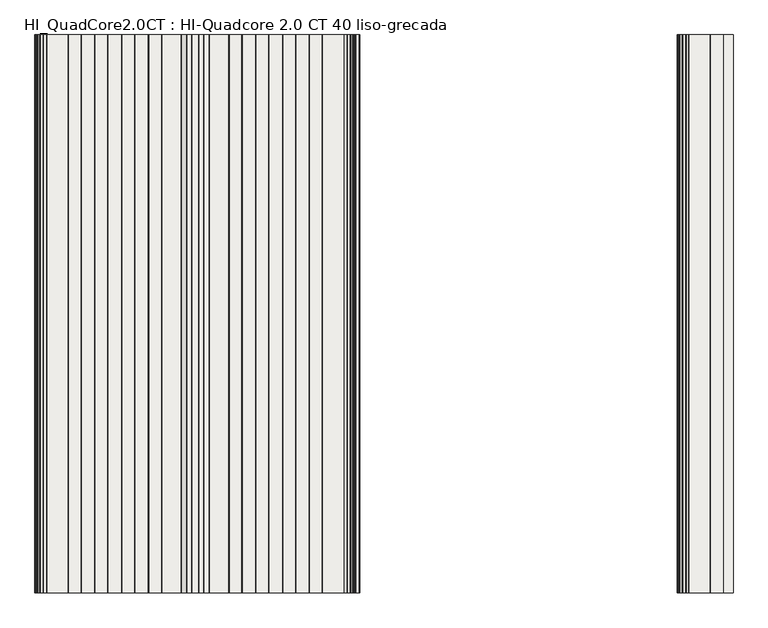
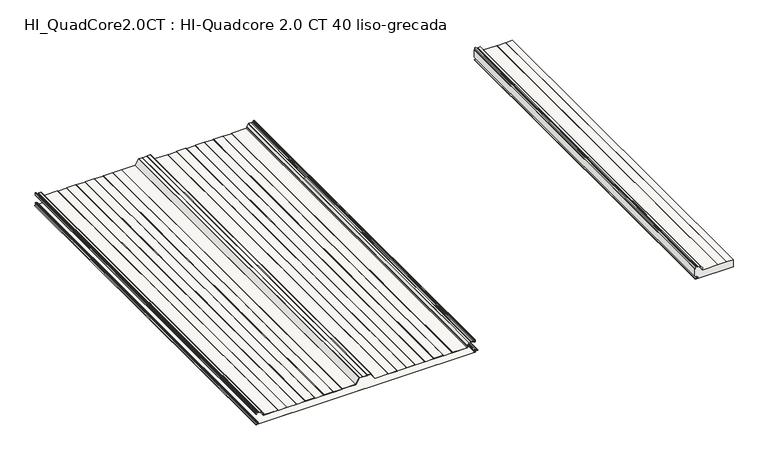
"""IFC4 building model written with IfcOpenShell, lengths in millimetres: slab geometry, HI_QuadCore2.0CT : HI-Quadcore 2.0 CT 40 liso-grecada."""

from ifc_helpers import new_model, si_unit, point, frame, frame_2d, origin, place, context, project, spatial, polyline, circle_curve, trimmed, segment, composite_curve, outline, extrude, source, transform, mapped, element, save
from ifc_brep_helpers import plane_surface, cylinder_surface, revolved_surface, advanced_brep


def hi_quadcore2_0ct_hi_quadcore_2_0_ct_40_liso_grecada_4fc66922(model_context):
    return source(origin(), model_context, "Body", "SolidModel", [
        advanced_brep(
        [(2305.1475465, 0.0, 55.7425833), (2301.3824194, 0.0, 57.9163804), (2300.0, 0.0, 57.9163804), (2300.0, 0.0, 16.239302), (2307.510215, 0.0, 16.239302), (2307.510215, 0.0, 15.4391074), (2303.6125693, 0.0, 15.4391074), (2302.4319301, 0.0, 14.2584682), (2303.4276302, 0.0, 13.0866965), (2311.8278581, 0.0, 11.7547343), (2311.7995989, 0.0, 4.4809044), (2301.8467032, 0.0, 2.9844289), (2302.0100062, 0.0, 0.8), (2500.0, 0.0, 0.8), (2500.0, 0.0, 39.2), (2467.3816122, 0.0, 39.2), (2465.6495614, 0.0, 38.2), (2420.6152775, 0.0, 38.2), (2418.8832267, 0.0, 39.2), (2342.7795617, 0.0, 39.2), (2339.9577511, 0.0, 46.2744555), (2340.9081159, 0.0, 47.0692788), (2341.1089583, 0.0, 48.5361221), (2331.7709236, 0.0, 62.1230469), (2330.8643848, 0.0, 62.6), (2321.5371875, 0.0, 62.6), (2319.8324194, 0.0, 61.8110374), (2318.1276514, 0.0, 62.6), (2311.4016791, 0.0, 62.6), (2309.2490397, 0.0, 64.0383476), (2307.3922843, 0.0, 68.5209518), (2306.3760168, 0.0, 69.2), (2302.7824194, 0.0, 69.2), (2301.6824194, 0.0, 68.1), (2301.6824194, 0.0, 58.6669358), (2305.5475465, 0.0, 56.4354036), (2305.1475465, 2000.0, 55.7425833), (2305.5475465, 2000.0, 56.4354036), (2301.6824194, 2000.0, 58.6669358), (2301.6824194, 2000.0, 68.1), (2302.7824194, 2000.0, 69.2), (2306.3760168, 2000.0, 69.2), (2307.3922843, 2000.0, 68.5209518), (2309.2490397, 2000.0, 64.0383476), (2311.4016791, 2000.0, 62.6), (2318.1276514, 2000.0, 62.6), (2319.8324194, 2000.0, 61.8110374), (2321.5371875, 2000.0, 62.6), (2330.8643848, 2000.0, 62.6), (2331.7709236, 2000.0, 62.1230469), (2341.1089583, 2000.0, 48.5361221), (2340.9081159, 2000.0, 47.0692788), (2339.9577511, 2000.0, 46.2744555), (2342.7795617, 2000.0, 39.2), (2418.8832267, 2000.0, 39.2), (2420.6152775, 2000.0, 38.2), (2465.6495614, 2000.0, 38.2), (2467.3816122, 2000.0, 39.2), (2500.0, 2000.0, 39.2), (2500.0, 2000.0, 0.8), (2302.0100062, 2000.0, 0.8), (2301.8467032, 2000.0, 2.9844289), (2311.7995989, 2000.0, 4.4809044), (2311.8278581, 2000.0, 11.7547343), (2303.4273037, 2000.0, 13.0846342), (2302.4319301, 2000.0, 14.2584682), (2303.6125693, 2000.0, 15.4391074), (2307.510215, 2000.0, 15.4391074), (2307.510215, 2000.0, 16.239302), (2300.0, 2000.0, 16.239302), (2300.0, 2000.0, 57.9163804), (2301.3824194, 2000.0, 57.9163804)],
        [
            (0, 1),
            (1, 2),
            (2, 3),
            (3, 4),
            (4, 5),
            (5, 6),
            (6, 7, circle_curve(frame((2303.6125693, 0.0, 14.2584682), z_axis=(0.0, -1.0, 0.0), x_axis=(1.0, 0.0, 0.0)), 1.1806391)),
            (7, 8, circle_curve(frame((2303.6121809, 0.0, 14.2524448), z_axis=(0.0, -1.0, 0.0), x_axis=(1.0, 0.0, 0.0)), 1.1802661)),
            (8, 9),
            (9, 10, circle_curve(frame((2311.2524398, 0.0, 8.12), z_axis=(0.0, 1.0, 0.0), x_axis=(1.0, 0.0, 0.0)), 3.68)),
            (10, 11),
            (11, 12, circle_curve(frame((2302.0100062, 0.0, 1.8983185), z_axis=(0.0, -1.0, 0.0), x_axis=(1.0, 0.0, 0.0)), 1.0983185)),
            (12, 13),
            (13, 14),
            (14, 15),
            (15, 16),
            (16, 17),
            (17, 18),
            (18, 19),
            (19, 20, circle_curve(frame((2342.7795617, 0.0, 43.3), z_axis=(0.0, 1.0, 0.0), x_axis=(1.0, 0.0, 0.0)), 4.1)),
            (20, 21),
            (21, 22, circle_curve(frame((2340.2024195, 0.0, 47.9130752), z_axis=(0.0, -1.0, 0.0), x_axis=(1.0, 0.0, 0.0)), 1.1)),
            (22, 23),
            (23, 24, circle_curve(frame((2330.8643848, 0.0, 61.5), z_axis=(0.0, -1.0, 0.0), x_axis=(1.0, 0.0, 0.0)), 1.1)),
            (24, 25),
            (25, 26),
            (26, 27),
            (27, 28),
            (28, 29, circle_curve(frame((2311.4016791, 0.0, 64.93), z_axis=(0.0, 1.0, 0.0), x_axis=(1.0, 0.0, 0.0)), 2.33)),
            (29, 30),
            (30, 31, circle_curve(frame((2306.3760168, 0.0, 68.1), z_axis=(0.0, -1.0, 0.0), x_axis=(1.0, 0.0, 0.0)), 1.1)),
            (31, 32),
            (32, 33, circle_curve(frame((2302.7824194, 0.0, 68.1), z_axis=(0.0, -1.0, 0.0), x_axis=(1.0, 0.0, 0.0)), 1.1)),
            (33, 34),
            (34, 35),
            (35, 0),
            (36, 37),
            (37, 38),
            (38, 39),
            (39, 40, circle_curve(frame((2302.7824194, 2000.0, 68.1), z_axis=(0.0, 1.0, 0.0), x_axis=(1.0, 0.0, 0.0)), 1.1)),
            (40, 41),
            (41, 42, circle_curve(frame((2306.3760168, 2000.0, 68.1), z_axis=(0.0, 1.0, 0.0), x_axis=(1.0, 0.0, 0.0)), 1.1)),
            (42, 43),
            (43, 44, circle_curve(frame((2311.4016791, 2000.0, 64.93), z_axis=(0.0, -1.0, 0.0), x_axis=(1.0, 0.0, 0.0)), 2.33)),
            (44, 45),
            (45, 46),
            (46, 47),
            (47, 48),
            (48, 49, circle_curve(frame((2330.8643848, 2000.0, 61.5), z_axis=(0.0, 1.0, 0.0), x_axis=(1.0, 0.0, 0.0)), 1.1)),
            (49, 50),
            (50, 51, circle_curve(frame((2340.2024195, 2000.0, 47.9130752), z_axis=(0.0, 1.0, 0.0), x_axis=(1.0, 0.0, 0.0)), 1.1)),
            (51, 52),
            (52, 53, circle_curve(frame((2342.7795617, 2000.0, 43.3), z_axis=(0.0, -1.0, 0.0), x_axis=(1.0, 0.0, 0.0)), 4.1)),
            (53, 54),
            (54, 55),
            (55, 56),
            (56, 57),
            (57, 58),
            (58, 59),
            (59, 60),
            (60, 61, circle_curve(frame((2302.0100062, 2000.0, 1.8983185), z_axis=(0.0, 1.0, 0.0), x_axis=(1.0, 0.0, 0.0)), 1.0983185)),
            (61, 62),
            (62, 63, circle_curve(frame((2311.2524398, 2000.0, 8.12), z_axis=(0.0, -1.0, 0.0), x_axis=(1.0, 0.0, 0.0)), 3.68)),
            (63, 64),
            (64, 65, circle_curve(frame((2303.6121809, 2000.0, 14.2524448), z_axis=(0.0, 1.0, 0.0), x_axis=(1.0, 0.0, 0.0)), 1.1802661)),
            (65, 66, circle_curve(frame((2303.6125693, 2000.0, 14.2584682), z_axis=(0.0, 1.0, 0.0), x_axis=(1.0, 0.0, 0.0)), 1.1806391)),
            (66, 67),
            (67, 68),
            (68, 69),
            (69, 70),
            (70, 71),
            (71, 36),
            (0, 36),
            (71, 1),
            (70, 2),
            (69, 3),
            (57, 15),
            (14, 58),
            (56, 16),
            (55, 17),
            (54, 18),
            (53, 19),
            (52, 20),
            (51, 21),
            (50, 22),
            (49, 23),
            (48, 24),
            (47, 25),
            (46, 26),
            (45, 27),
            (44, 28),
            (43, 29),
            (42, 30),
            (41, 31),
            (40, 32),
            (39, 33),
            (38, 34),
            (37, 35),
            (68, 4),
            (67, 5),
            (66, 6),
            (65, 7),
            (64, 8),
            (63, 9),
            (62, 10),
            (61, 11),
            (60, 12),
            (59, 13),
        ],
        [
            plane_surface(frame((2301.3824194, 0.0, 57.9163804), z_axis=(0.0, -1.0, 0.0), x_axis=(-0.8660254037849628, 0.0, 0.49999999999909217))),
            plane_surface(frame((2301.3824194, 2000.0, 57.9163804), z_axis=(0.0, 1.0, 0.0), x_axis=(0.8660254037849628, 0.0, -0.49999999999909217))),
            plane_surface(frame((2305.1475465, 0.0, 55.7425833), z_axis=(0.49999999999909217, 0.0, 0.8660254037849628), x_axis=(0.0, 1.0, 0.0))),
            plane_surface(frame((2301.3824194, 0.0, 57.9163804), z_axis=(0.0, 0.0, 1.0), x_axis=(0.0, 1.0, 0.0))),
            plane_surface(frame((2300.0, 0.0, 57.9163804), z_axis=(-1.0, 0.0, 0.0), x_axis=(0.0, 1.0, 0.0))),
            plane_surface(frame((2514.8832267, 0.0, 39.2), z_axis=(0.0, 0.0, 1.0), x_axis=(0.0, 1.0, 0.0))),
            plane_surface(frame((2467.3816122, 0.0, 39.2), z_axis=(-0.5000000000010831, 0.0, 0.8660254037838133), x_axis=(0.0, 1.0, 0.0))),
            plane_surface(frame((2465.6495614, 0.0, 38.2), z_axis=(0.0, 0.0, 1.0), x_axis=(0.0, 1.0, 0.0))),
            plane_surface(frame((2420.6152775, 0.0, 38.2), z_axis=(0.4999999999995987, 0.0, 0.8660254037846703), x_axis=(0.0, 1.0, 0.0))),
            plane_surface(frame((2418.8832267, 0.0, 39.2), z_axis=(0.0, 0.0, 1.0), x_axis=(0.0, 1.0, 0.0))),
            revolved_surface(polyline([(2346.8795617, 2000.0, 43.3), (2346.8795617, 0.0, 43.3)]), (2342.7795617, 2000.0, 43.3), (0.0, 1.0, 0.0)),
            plane_surface(frame((2339.9577511, 0.0, 46.2744555), z_axis=(0.6415422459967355, 0.0, -0.767087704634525), x_axis=(0.0, 1.0, 0.0))),
            cylinder_surface(frame((2340.2024195, 2000.0, 47.9130752), z_axis=(0.0, -1.0, 0.0), x_axis=(1.0, 0.0, 0.0)), 1.1),
            plane_surface(frame((2341.1089583, 0.0, 48.5361221), z_axis=(0.8241261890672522, 0.0, 0.5664062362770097), x_axis=(0.0, 1.0, 0.0))),
            cylinder_surface(frame((2330.8643848, 2000.0, 61.5), z_axis=(0.0, -1.0, 0.0), x_axis=(1.0, 0.0, 0.0)), 1.1),
            plane_surface(frame((2330.8643848, 0.0, 62.6), z_axis=(0.0, 0.0, 1.0), x_axis=(0.0, 1.0, 0.0))),
            plane_surface(frame((2321.5371875, 0.0, 62.6), z_axis=(-0.41999999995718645, 0.0, 0.9075241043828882), x_axis=(0.0, 1.0, 0.0))),
            plane_surface(frame((2319.8324194, 0.0, 61.8110374), z_axis=(0.4200000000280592, 0.0, 0.9075241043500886), x_axis=(0.0, 1.0, 0.0))),
            plane_surface(frame((2318.1276514, 0.0, 62.6), z_axis=(0.0, 0.0, 1.0), x_axis=(0.0, 1.0, 0.0))),
            revolved_surface(polyline([(2313.7316791, 2000.0, 64.93), (2313.7316791, 0.0, 64.93)]), (2311.4016791, 2000.0, 64.93), (0.0, 1.0, 0.0)),
            plane_surface(frame((2309.2490397, 0.0, 64.0383476), z_axis=(0.9238795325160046, 0.0, 0.3826834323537), x_axis=(0.0, 1.0, 0.0))),
            cylinder_surface(frame((2306.3760168, 2000.0, 68.1), z_axis=(0.0, -1.0, 0.0), x_axis=(1.0, 0.0, 0.0)), 1.1),
            plane_surface(frame((2306.3760168, 0.0, 69.2), z_axis=(0.0, 0.0, 1.0), x_axis=(0.0, 1.0, 0.0))),
            cylinder_surface(frame((2302.7824194, 2000.0, 68.1), z_axis=(0.0, -1.0, 0.0), x_axis=(1.0, 0.0, 0.0)), 1.1),
            plane_surface(frame((2301.6824194, 0.0, 68.1), z_axis=(-1.0, 0.0, 0.0), x_axis=(0.0, 1.0, 0.0))),
            plane_surface(frame((2301.6824194, 0.0, 58.6669358), z_axis=(-0.49999999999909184, 0.0, -0.866025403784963), x_axis=(0.0, 1.0, 0.0))),
            plane_surface(frame((2305.5475465, 0.0, 56.4354036), z_axis=(-0.866025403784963, 0.0, 0.4999999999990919), x_axis=(0.0, 1.0, 0.0))),
            plane_surface(frame((2300.0, 0.0, 16.239302), z_axis=(0.0, 0.0, -1.0), x_axis=(0.0, 1.0, 0.0))),
            plane_surface(frame((2307.510215, 0.0, 16.239302), z_axis=(-1.0, 0.0, 0.0), x_axis=(0.0, 1.0, 0.0))),
            plane_surface(frame((2307.510215, 0.0, 15.4391074), z_axis=(0.0, 0.0, 1.0), x_axis=(0.0, 1.0, 0.0))),
            cylinder_surface(frame((2303.6125693, 2000.0, 14.2584682), z_axis=(0.0, -1.0, 0.0), x_axis=(1.0, 0.0, 0.0)), 1.1806391),
            cylinder_surface(frame((2303.6121809, 2000.0, 14.2524448), z_axis=(0.0, -1.0, 0.0), x_axis=(1.0, 0.0, 0.0)), 1.1802661),
            plane_surface(frame((2303.4273037, 0.0, 13.0846342), z_axis=(-0.1563636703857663, 0.0, -0.9876995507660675), x_axis=(0.0, 1.0, 0.0))),
            revolved_surface(polyline([(2314.9324398, 2000.0, 8.12), (2314.9324398, 0.0, 8.12)]), (2311.2524398, 2000.0, 8.12), (0.0, 1.0, 0.0)),
            plane_surface(frame((2311.7995989, 0.0, 4.4809044), z_axis=(-0.14868453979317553, 0.0, 0.9888846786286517), x_axis=(0.0, 1.0, 0.0))),
            cylinder_surface(frame((2302.0100062, 2000.0, 1.8983185), z_axis=(0.0, -1.0, 0.0), x_axis=(1.0, 0.0, 0.0)), 1.0983185),
            plane_surface(frame((2302.0100062, 0.0, 0.8), z_axis=(0.0, 0.0, -1.0), x_axis=(0.0, 1.0, 0.0))),
            plane_surface(frame((2500.0, 0.0, 86.2714688), z_axis=(1.0, 0.0, 0.0), x_axis=(0.0, 1.0, 0.0))),
        ],
        [
            (0, [[1, 2, 3, 4, 5, 6, 7, 8, 9, 10, 11, 12, 13, 14, 15, 16, 17, 18, 19, 20, 21, 22, 23, 24, 25, 26, 27, 28, 29, 30, 31, 32, 33, 34, 35, 36]]),
            (1, [[37, 38, 39, 40, 41, 42, 43, 44, 45, 46, 47, 48, 49, 50, 51, 52, 53, 54, 55, 56, 57, 58, 59, 60, 61, 62, 63, 64, 65, 66, 67, 68, 69, 70, 71, 72]]),
            (2, [[-1, 73, -72, 74]]),
            (3, [[-2, -74, -71, 75]]),
            (4, [[-75, -70, 76, -3]]),
            (5, [[77, -15, 78, -58]]),
            (6, [[-16, -77, -57, 79]]),
            (7, [[-17, -79, -56, 80]]),
            (8, [[-18, -80, -55, 81]]),
            (9, [[-19, -81, -54, 82]]),
            (10, [[-20, -82, -53, 83]]),
            (11, [[-21, -83, -52, 84]]),
            (12, [[-22, -84, -51, 85]]),
            (13, [[-23, -85, -50, 86]]),
            (14, [[-24, -86, -49, 87]]),
            (15, [[-25, -87, -48, 88]]),
            (16, [[-26, -88, -47, 89]]),
            (17, [[-27, -89, -46, 90]]),
            (18, [[-28, -90, -45, 91]]),
            (19, [[-29, -91, -44, 92]]),
            (20, [[-30, -92, -43, 93]]),
            (21, [[-31, -93, -42, 94]]),
            (22, [[-32, -94, -41, 95]]),
            (23, [[-33, -95, -40, 96]]),
            (24, [[-34, -96, -39, 97]]),
            (25, [[-35, -97, -38, 98]]),
            (26, [[-36, -98, -37, -73]]),
            (27, [[-76, -69, 99, -4]]),
            (28, [[-5, -99, -68, 100]]),
            (29, [[-6, -100, -67, 101]]),
            (30, [[-7, -101, -66, 102]]),
            (31, [[-8, -102, -65, 103]]),
            (32, [[-9, -103, -64, 104]]),
            (33, [[-10, -104, -63, 105]]),
            (34, [[-11, -105, -62, 106]]),
            (35, [[-12, -106, -61, 107]]),
            (36, [[-107, -60, 108, -13]]),
            (37, [[-14, -108, -59, -78]]),
        ],
    ),
        advanced_brep(
        [(3.6125412, 0.0, 16.239302), (1.6320413, 0.0, 14.2588021), (3.3026044, 0.0, 12.2960661), (11.7027672, 0.0, 10.9645747), (11.6806488, 0.0, 5.2720118), (1.7277556, 0.0, 3.7755366), (2.0100062, 0.0, 0.0), (1147.9590685, 0.0, 0.0), (1150.1391392, 0.0, 2.1800708), (1152.6636211, 0.0, 5.0353254), (1160.9083654, 0.0, 6.0356531), (1160.9083654, 0.0, 10.2043469), (1150.9419234, 0.0, 11.413338), (1148.6324398, 0.0, 14.0237344), (1147.5187526, 0.0, 16.24), (1142.7624398, 0.0, 16.24), (1142.7624398, 0.0, 15.44), (1147.2282701, 0.0, 15.44), (1147.8324398, 0.0, 14.0237344), (1150.8450446, 0.0, 10.6192254), (1160.7843299, 0.0, 9.4135286), (1160.7843221, 0.0, 6.8264698), (1152.5664905, 0.0, 5.8294074), (1149.3391392, 0.0, 2.1800708), (1147.9590685, 0.0, 0.8), (2.0100062, 0.0, 0.8), (1.8467032, 0.0, 2.9844289), (11.7995989, 0.0, 4.4809044), (11.8278581, 0.0, 11.7547343), (3.4279307, 0.0, 13.084535), (2.4319301, 0.0, 14.2584682), (3.6125693, 0.0, 15.4391074), (7.510215, 0.0, 15.4391074), (7.510215, 0.0, 16.239302), (3.6125412, 2000.0, 16.239302), (7.510215, 2000.0, 16.239302), (7.510215, 2000.0, 15.4391074), (3.6125693, 2000.0, 15.4391074), (2.4319301, 2000.0, 14.2584682), (3.4276302, 2000.0, 13.0866965), (11.8278581, 2000.0, 11.7547343), (11.7995989, 2000.0, 4.4809044), (1.8467032, 2000.0, 2.9844289), (2.0100062, 2000.0, 0.8), (1147.9590685, 2000.0, 0.8), (1149.3391392, 2000.0, 2.1800708), (1152.5664905, 2000.0, 5.8294074), (1160.7843221, 2000.0, 6.8264698), (1160.7843299, 2000.0, 9.4135286), (1150.8450446, 2000.0, 10.6192254), (1147.8324398, 2000.0, 14.0237344), (1147.2282701, 2000.0, 15.44), (1142.7624398, 2000.0, 15.44), (1142.7624398, 2000.0, 16.24), (1147.5187526, 2000.0, 16.24), (1148.6324398, 2000.0, 14.0237344), (1150.9419234, 2000.0, 11.413338), (1160.9083654, 2000.0, 10.2043469), (1160.9083654, 2000.0, 6.0356531), (1152.6636211, 2000.0, 5.0353254), (1150.1391392, 2000.0, 2.1800708), (1147.9590685, 2000.0, 0.0), (2.0100062, 2000.0, 0.0), (1.7277556, 2000.0, 3.7755366), (11.6806488, 2000.0, 5.2720118), (11.7027672, 2000.0, 10.9645747), (3.3028397, 2000.0, 12.2943753), (1.6320413, 2000.0, 14.2588021)],
        [
            (0, 1, circle_curve(frame((3.6125412, 0.0, 14.2588021), z_axis=(0.0, -1.0, 0.0), x_axis=(1.0, 0.0, 0.0)), 1.9804999)),
            (1, 2, circle_curve(frame((3.612237, 0.0, 14.2519163), z_axis=(0.0, -1.0, 0.0), x_axis=(1.0, 0.0, 0.0)), 1.9802076)),
            (2, 3),
            (3, 4, circle_curve(frame((11.2524398, 0.0, 8.12), z_axis=(0.0, 1.0, 0.0), x_axis=(1.0, 0.0, 0.0)), 2.88)),
            (4, 5),
            (5, 6, circle_curve(frame((2.0100062, 0.0, 1.8983185), z_axis=(0.0, -1.0, 0.0), x_axis=(1.0, 0.0, 0.0)), 1.8983185)),
            (6, 7),
            (7, 8, circle_curve(frame((1147.9590685, 0.0, 2.1800708), z_axis=(0.0, -1.0, 0.0), x_axis=(1.0, 0.0, 0.0)), 2.1800708)),
            (8, 9, circle_curve(frame((1153.0160638, 0.0, 2.1800708), z_axis=(0.0, 1.0, 0.0), x_axis=(1.0, 0.0, 0.0)), 2.8769246)),
            (9, 10),
            (10, 11, circle_curve(frame((1160.5224398, 0.0, 8.12), z_axis=(0.0, -1.0, 0.0), x_axis=(1.0, 0.0, 0.0)), 2.1197737)),
            (11, 12),
            (12, 13, circle_curve(frame((1151.2624398, 0.0, 14.0237344), z_axis=(0.0, 1.0, 0.0), x_axis=(1.0, 0.0, 0.0)), 2.63)),
            (13, 14, circle_curve(frame((1145.8703839, 0.0, 14.0237344), z_axis=(0.0, -1.0, 0.0), x_axis=(1.0, 0.0, 0.0)), 2.7620559)),
            (14, 15),
            (15, 16),
            (16, 17),
            (17, 18, circle_curve(frame((1145.8703839, 0.0, 14.0237344), z_axis=(0.0, 1.0, 0.0), x_axis=(1.0, 0.0, 0.0)), 1.9620559)),
            (18, 19, circle_curve(frame((1151.2624398, 0.0, 14.0237344), z_axis=(0.0, -1.0, 0.0), x_axis=(1.0, 0.0, 0.0)), 3.43)),
            (19, 20),
            (20, 21, circle_curve(frame((1160.5224398, 0.0, 8.12), z_axis=(0.0, 1.0, 0.0), x_axis=(1.0, 0.0, 0.0)), 1.3197737)),
            (21, 22),
            (22, 23, circle_curve(frame((1153.0160638, 0.0, 2.1800708), z_axis=(0.0, -1.0, 0.0), x_axis=(1.0, 0.0, 0.0)), 3.6769246)),
            (23, 24, circle_curve(frame((1147.9590685, 0.0, 2.1800708), z_axis=(0.0, 1.0, 0.0), x_axis=(1.0, 0.0, 0.0)), 1.3800708)),
            (24, 25),
            (25, 26, circle_curve(frame((2.0100062, 0.0, 1.8983185), z_axis=(0.0, 1.0, 0.0), x_axis=(1.0, 0.0, 0.0)), 1.0983185)),
            (26, 27),
            (27, 28, circle_curve(frame((11.2524398, 0.0, 8.12), z_axis=(0.0, -1.0, 0.0), x_axis=(1.0, 0.0, 0.0)), 3.68)),
            (28, 29),
            (29, 30, circle_curve(frame((3.6121809, 0.0, 14.2524448), z_axis=(0.0, 1.0, 0.0), x_axis=(1.0, 0.0, 0.0)), 1.1802661)),
            (30, 31, circle_curve(frame((3.6125693, 0.0, 14.2584682), z_axis=(0.0, 1.0, 0.0), x_axis=(1.0, 0.0, 0.0)), 1.1806391)),
            (31, 32),
            (32, 33),
            (33, 0),
            (34, 35),
            (35, 36),
            (36, 37),
            (37, 38, circle_curve(frame((3.6125693, 2000.0, 14.2584682), z_axis=(0.0, -1.0, 0.0), x_axis=(1.0, 0.0, 0.0)), 1.1806391)),
            (38, 39, circle_curve(frame((3.6121809, 2000.0, 14.2524448), z_axis=(0.0, -1.0, 0.0), x_axis=(1.0, 0.0, 0.0)), 1.1802661)),
            (39, 40),
            (40, 41, circle_curve(frame((11.2524398, 2000.0, 8.12), z_axis=(0.0, 1.0, 0.0), x_axis=(1.0, 0.0, 0.0)), 3.68)),
            (41, 42),
            (42, 43, circle_curve(frame((2.0100062, 2000.0, 1.8983185), z_axis=(0.0, -1.0, 0.0), x_axis=(1.0, 0.0, 0.0)), 1.0983185)),
            (43, 44),
            (44, 45, circle_curve(frame((1147.9590685, 2000.0, 2.1800708), z_axis=(0.0, -1.0, 0.0), x_axis=(1.0, 0.0, 0.0)), 1.3800708)),
            (45, 46, circle_curve(frame((1153.0160638, 2000.0, 2.1800708), z_axis=(0.0, 1.0, 0.0), x_axis=(1.0, 0.0, 0.0)), 3.6769246)),
            (46, 47),
            (47, 48, circle_curve(frame((1160.5224398, 2000.0, 8.12), z_axis=(0.0, -1.0, 0.0), x_axis=(1.0, 0.0, 0.0)), 1.3197737)),
            (48, 49),
            (49, 50, circle_curve(frame((1151.2624398, 2000.0, 14.0237344), z_axis=(0.0, 1.0, 0.0), x_axis=(1.0, 0.0, 0.0)), 3.43)),
            (50, 51, circle_curve(frame((1145.8703839, 2000.0, 14.0237344), z_axis=(0.0, -1.0, 0.0), x_axis=(1.0, 0.0, 0.0)), 1.9620559)),
            (51, 52),
            (52, 53),
            (53, 54),
            (54, 55, circle_curve(frame((1145.8703839, 2000.0, 14.0237344), z_axis=(0.0, 1.0, 0.0), x_axis=(1.0, 0.0, 0.0)), 2.7620559)),
            (55, 56, circle_curve(frame((1151.2624398, 2000.0, 14.0237344), z_axis=(0.0, -1.0, 0.0), x_axis=(1.0, 0.0, 0.0)), 2.63)),
            (56, 57),
            (57, 58, circle_curve(frame((1160.5224398, 2000.0, 8.12), z_axis=(0.0, 1.0, 0.0), x_axis=(1.0, 0.0, 0.0)), 2.1197737)),
            (58, 59),
            (59, 60, circle_curve(frame((1153.0160638, 2000.0, 2.1800708), z_axis=(0.0, -1.0, 0.0), x_axis=(1.0, 0.0, 0.0)), 2.8769246)),
            (60, 61, circle_curve(frame((1147.9590685, 2000.0, 2.1800708), z_axis=(0.0, 1.0, 0.0), x_axis=(1.0, 0.0, 0.0)), 2.1800708)),
            (61, 62),
            (62, 63, circle_curve(frame((2.0100062, 2000.0, 1.8983185), z_axis=(0.0, 1.0, 0.0), x_axis=(1.0, 0.0, 0.0)), 1.8983185)),
            (63, 64),
            (64, 65, circle_curve(frame((11.2524398, 2000.0, 8.12), z_axis=(0.0, -1.0, 0.0), x_axis=(1.0, 0.0, 0.0)), 2.88)),
            (65, 66),
            (66, 67, circle_curve(frame((3.612237, 2000.0, 14.2519163), z_axis=(0.0, 1.0, 0.0), x_axis=(1.0, 0.0, 0.0)), 1.9802076)),
            (67, 34, circle_curve(frame((3.6125412, 2000.0, 14.2588021), z_axis=(0.0, 1.0, 0.0), x_axis=(1.0, 0.0, 0.0)), 1.9804999)),
            (0, 34),
            (67, 1),
            (66, 2),
            (65, 3),
            (64, 4),
            (63, 5),
            (62, 6),
            (61, 7),
            (60, 8),
            (59, 9),
            (58, 10),
            (57, 11),
            (56, 12),
            (55, 13),
            (54, 14),
            (53, 15),
            (52, 16),
            (51, 17),
            (50, 18),
            (49, 19),
            (48, 20),
            (47, 21),
            (46, 22),
            (45, 23),
            (44, 24),
            (43, 25),
            (42, 26),
            (41, 27),
            (40, 28),
            (39, 29),
            (38, 30),
            (37, 31),
            (36, 32),
            (35, 33),
        ],
        [
            plane_surface(frame((5.5930411, 0.0, 14.2588021), z_axis=(0.0, -1.0, 0.0), x_axis=(0.0, 0.0, 1.0))),
            plane_surface(frame((5.5930411, 2000.0, 14.2588021), z_axis=(0.0, 1.0, 0.0), x_axis=(0.0, 0.0, -1.0))),
            cylinder_surface(frame((3.6125412, 2000.0, 14.2588021), z_axis=(0.0, -1.0, 0.0), x_axis=(1.0, 0.0, 0.0)), 1.9804999),
            cylinder_surface(frame((3.612237, 2000.0, 14.2519163), z_axis=(0.0, -1.0, 0.0), x_axis=(1.0, 0.0, 0.0)), 1.9802076),
            plane_surface(frame((3.3028397, 0.0, 12.2943753), z_axis=(-0.15636367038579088, 0.0, -0.9876995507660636), x_axis=(0.0, 1.0, 0.0))),
            revolved_surface(polyline([(14.1324398, 2000.0, 8.12), (14.1324398, 0.0, 8.12)]), (11.2524398, 2000.0, 8.12), (0.0, 1.0, 0.0)),
            plane_surface(frame((11.6806488, 0.0, 5.2720118), z_axis=(-0.14868453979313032, 0.0, 0.9888846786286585), x_axis=(0.0, 1.0, 0.0))),
            cylinder_surface(frame((2.0100062, 2000.0, 1.8983185), z_axis=(0.0, -1.0, 0.0), x_axis=(1.0, 0.0, 0.0)), 1.8983185),
            plane_surface(frame((2.0100062, 0.0, 0.0), z_axis=(0.0, 0.0, -1.0), x_axis=(0.0, 1.0, 0.0))),
            cylinder_surface(frame((1147.9590685, 2000.0, 2.1800708), z_axis=(0.0, -1.0, 0.0), x_axis=(1.0, 0.0, 0.0)), 2.1800708),
            revolved_surface(polyline([(1155.8929884, 2000.0, 2.1800708), (1155.8929884, 0.0, 2.1800708)]), (1153.0160638, 2000.0, 2.1800708), (0.0, 1.0, 0.0)),
            plane_surface(frame((1152.6636211, 0.0, 5.0353254), z_axis=(0.12044584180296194, 0.0, -0.9927198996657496), x_axis=(0.0, 1.0, 0.0))),
            cylinder_surface(frame((1160.5224398, 2000.0, 8.12), z_axis=(0.0, -1.0, 0.0), x_axis=(1.0, 0.0, 0.0)), 2.1197737),
            plane_surface(frame((1160.9083654, 0.0, 10.2043469), z_axis=(0.12042339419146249, 0.0, 0.9927226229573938), x_axis=(0.0, 1.0, 0.0))),
            revolved_surface(polyline([(1153.8924398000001, 2000.0, 14.0237344), (1153.8924398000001, 0.0, 14.0237344)]), (1151.2624398, 2000.0, 14.0237344), (0.0, 1.0, 0.0)),
            cylinder_surface(frame((1145.8703839, 2000.0, 14.0237344), z_axis=(0.0, -1.0, 0.0), x_axis=(1.0, 0.0, 0.0)), 2.7620559),
            plane_surface(frame((1147.5187526, 0.0, 16.24), z_axis=(0.0, 0.0, 1.0), x_axis=(0.0, 1.0, 0.0))),
            plane_surface(frame((1142.7624398, 0.0, 16.24), z_axis=(-1.0, 0.0, 0.0), x_axis=(0.0, 1.0, 0.0))),
            plane_surface(frame((1142.7624398, 0.0, 15.44), z_axis=(0.0, 0.0, -1.0), x_axis=(0.0, 1.0, 0.0))),
            revolved_surface(polyline([(1147.8324398, 2000.0, 14.0237344), (1147.8324398, 0.0, 14.0237344)]), (1145.8703839, 2000.0, 14.0237344), (0.0, 1.0, 0.0)),
            cylinder_surface(frame((1151.2624398, 2000.0, 14.0237344), z_axis=(0.0, -1.0, 0.0), x_axis=(1.0, 0.0, 0.0)), 3.43),
            plane_surface(frame((1150.8450446, 0.0, 10.6192254), z_axis=(-0.12042339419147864, 0.0, -0.9927226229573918), x_axis=(0.0, 1.0, 0.0))),
            revolved_surface(polyline([(1161.8422135, 2000.0, 8.12), (1161.8422135, 0.0, 8.12)]), (1160.5224398, 2000.0, 8.12), (0.0, 1.0, 0.0)),
            plane_surface(frame((1160.7843221, 0.0, 6.8264698), z_axis=(-0.12044584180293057, 0.0, 0.9927198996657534), x_axis=(0.0, 1.0, 0.0))),
            cylinder_surface(frame((1153.0160638, 2000.0, 2.1800708), z_axis=(0.0, -1.0, 0.0), x_axis=(1.0, 0.0, 0.0)), 3.6769246),
            revolved_surface(polyline([(1149.3391393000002, 2000.0, 2.1800708), (1149.3391393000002, 0.0, 2.1800708)]), (1147.9590685, 2000.0, 2.1800708), (0.0, 1.0, 0.0)),
            plane_surface(frame((1147.9590685, 0.0, 0.8), z_axis=(0.0, 0.0, 1.0), x_axis=(0.0, 1.0, 0.0))),
            revolved_surface(polyline([(3.1083247, 2000.0, 1.8983185), (3.1083247, 0.0, 1.8983185)]), (2.0100062, 2000.0, 1.8983185), (0.0, 1.0, 0.0)),
            plane_surface(frame((1.8467032, 0.0, 2.9844289), z_axis=(0.14868453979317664, 0.0, -0.9888846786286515), x_axis=(0.0, 1.0, 0.0))),
            cylinder_surface(frame((11.2524398, 2000.0, 8.12), z_axis=(0.0, -1.0, 0.0), x_axis=(1.0, 0.0, 0.0)), 3.68),
            plane_surface(frame((11.8278581, 0.0, 11.7547343), z_axis=(0.15636367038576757, 0.0, 0.9876995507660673), x_axis=(0.0, 1.0, 0.0))),
            revolved_surface(polyline([(4.792447, 2000.0, 14.2524448), (4.792447, 0.0, 14.2524448)]), (3.6121809, 2000.0, 14.2524448), (0.0, 1.0, 0.0)),
            revolved_surface(polyline([(4.7932084, 2000.0, 14.2584682), (4.7932084, 0.0, 14.2584682)]), (3.6125693, 2000.0, 14.2584682), (0.0, 1.0, 0.0)),
            plane_surface(frame((3.6125693, 0.0, 15.4391074), z_axis=(0.0, 0.0, -1.0), x_axis=(0.0, 1.0, 0.0))),
            plane_surface(frame((7.510215, 0.0, 15.4391074), z_axis=(1.0, 0.0, 0.0), x_axis=(0.0, 1.0, 0.0))),
            plane_surface(frame((7.510215, 0.0, 16.239302), z_axis=(0.0, 0.0, 1.0), x_axis=(0.0, 1.0, 0.0))),
        ],
        [
            (0, [[1, 2, 3, 4, 5, 6, 7, 8, 9, 10, 11, 12, 13, 14, 15, 16, 17, 18, 19, 20, 21, 22, 23, 24, 25, 26, 27, 28, 29, 30, 31, 32, 33, 34]]),
            (1, [[35, 36, 37, 38, 39, 40, 41, 42, 43, 44, 45, 46, 47, 48, 49, 50, 51, 52, 53, 54, 55, 56, 57, 58, 59, 60, 61, 62, 63, 64, 65, 66, 67, 68]]),
            (2, [[-1, 69, -68, 70]]),
            (3, [[-2, -70, -67, 71]]),
            (4, [[-3, -71, -66, 72]]),
            (5, [[-4, -72, -65, 73]]),
            (6, [[-5, -73, -64, 74]]),
            (7, [[-6, -74, -63, 75]]),
            (8, [[-7, -75, -62, 76]]),
            (9, [[-8, -76, -61, 77]]),
            (10, [[-9, -77, -60, 78]]),
            (11, [[-10, -78, -59, 79]]),
            (12, [[-11, -79, -58, 80]]),
            (13, [[-12, -80, -57, 81]]),
            (14, [[-13, -81, -56, 82]]),
            (15, [[-14, -82, -55, 83]]),
            (16, [[-15, -83, -54, 84]]),
            (17, [[-16, -84, -53, 85]]),
            (18, [[-17, -85, -52, 86]]),
            (19, [[-18, -86, -51, 87]]),
            (20, [[-19, -87, -50, 88]]),
            (21, [[-20, -88, -49, 89]]),
            (22, [[-21, -89, -48, 90]]),
            (23, [[-22, -90, -47, 91]]),
            (24, [[-23, -91, -46, 92]]),
            (25, [[-24, -92, -45, 93]]),
            (26, [[-25, -93, -44, 94]]),
            (27, [[-26, -94, -43, 95]]),
            (28, [[-27, -95, -42, 96]]),
            (29, [[-28, -96, -41, 97]]),
            (30, [[-29, -97, -40, 98]]),
            (31, [[-30, -98, -39, 99]]),
            (32, [[-31, -99, -38, 100]]),
            (33, [[-32, -100, -37, 101]]),
            (34, [[-33, -101, -36, 102]]),
            (35, [[-34, -102, -35, -69]]),
        ],
    ),
        extrude(outline(composite_curve([segment(polyline([(57.9163804, 1.3824194), (55.7425833, 5.1475465), (56.4354036, 5.5475465), (58.6669358, 1.6824194), (68.1, 1.6824194)]), True, "CONTINUOUS"), segment(trimmed(circle_curve(frame_2d((68.1, 2.7824194)), 1.1), [point((68.1, 1.6824194))], [point((69.2, 2.7824194))], True, "CARTESIAN"), True, "CONTINUOUS"), segment(polyline([(69.2, 2.7824194), (69.2, 6.3760168)]), True, "CONTINUOUS"), segment(trimmed(circle_curve(frame_2d((68.1, 6.3760168)), 1.1), [point((69.2, 6.3760168))], [point((68.5209518, 7.3922843))], True, "CARTESIAN"), True, "CONTINUOUS"), segment(polyline([(68.5209518, 7.3922843), (64.0383476, 9.2490397)]), True, "CONTINUOUS"), segment(trimmed(circle_curve(frame_2d((64.93, 11.4016791)), 2.33), [point((64.0383476, 9.2490397))], [point((62.6, 11.4016791))], False, "CARTESIAN"), True, "CONTINUOUS"), segment(polyline([(62.6, 11.4016791), (62.6, 18.1276514), (61.8110374, 19.8324194), (62.6, 21.5371875), (62.6, 30.8643848)]), True, "CONTINUOUS"), segment(trimmed(circle_curve(frame_2d((61.5, 30.8643848)), 1.1), [point((62.6, 30.8643848))], [point((62.1230469, 31.7709236))], True, "CARTESIAN"), True, "CONTINUOUS"), segment(polyline([(62.1230469, 31.7709236), (48.5361221, 41.1089583)]), True, "CONTINUOUS"), segment(trimmed(circle_curve(frame_2d((47.9130752, 40.2024195)), 1.1), [point((48.5361221, 41.1089583))], [point((47.0692788, 40.9081159))], True, "CARTESIAN"), True, "CONTINUOUS"), segment(polyline([(47.0692788, 40.9081159), (46.2744555, 39.9577511)]), True, "CONTINUOUS"), segment(trimmed(circle_curve(frame_2d((43.3, 42.7795617)), 4.1), [point((46.2744555, 39.9577511))], [point((39.2, 42.7795617))], False, "CARTESIAN"), True, "CONTINUOUS"), segment(polyline([(39.2, 42.7795617), (39.2, 118.8832267), (38.2, 120.6152775), (38.2, 165.6495614), (39.2, 167.3816122), (39.2, 214.8832267), (38.2, 216.6152775), (38.2, 261.6495614), (39.2, 263.3816122), (39.2, 310.8832267), (38.2, 312.6152775), (38.2, 357.6495614), (39.2, 359.3816122), (39.2, 406.8832267), (38.2, 408.6152775), (38.2, 453.6495614), (39.2, 455.3816122), (39.2, 524.3619266)]), True, "CONTINUOUS"), segment(trimmed(circle_curve(frame_2d((41.53, 524.3619266)), 2.33), [point((39.2, 524.3619266))], [point((40.2833287, 526.330355))], False, "CARTESIAN"), True, "CONTINUOUS"), segment(polyline([(40.2833287, 526.330355), (68.6885573, 544.3203331)]), True, "CONTINUOUS"), segment(trimmed(circle_curve(frame_2d((68.1, 545.2496341)), 1.1), [point((68.6885573, 544.3203331))], [point((69.2, 545.2496341))], True, "CARTESIAN"), True, "CONTINUOUS"), segment(polyline([(69.2, 545.2496341), (69.2, 561.3832267), (67.7, 563.9813029), (67.7, 586.283536), (69.2, 588.8816122), (69.2, 605.0152048)]), True, "CONTINUOUS"), segment(trimmed(circle_curve(frame_2d((68.1, 605.0152048)), 1.1), [point((69.2, 605.0152048))], [point((68.6885573, 605.9445057))], True, "CARTESIAN"), True, "CONTINUOUS"), segment(polyline([(68.6885573, 605.9445057), (40.2833287, 623.9344839)]), True, "CONTINUOUS"), segment(trimmed(circle_curve(frame_2d((41.53, 625.9029123)), 2.33), [point((40.2833287, 623.9344839))], [point((39.2, 625.9029123))], False, "CARTESIAN"), True, "CONTINUOUS"), segment(polyline([(39.2, 625.9029123), (39.2, 694.8832267), (38.2, 696.6152775), (38.2, 741.6495614), (39.2, 743.3816122), (39.2, 790.8832267), (38.2, 792.6152775), (38.2, 837.6495614), (39.2, 839.3816122), (39.2, 886.8832267), (38.2, 888.6152775), (38.2, 933.6495614), (39.2, 935.3816122), (39.2, 982.8832267), (38.2, 984.6152775), (38.2, 1029.6495614), (39.2, 1031.3816122), (39.2, 1107.4852773)]), True, "CONTINUOUS"), segment(trimmed(circle_curve(frame_2d((43.3, 1107.4852773)), 4.1), [point((39.2, 1107.4852773))], [point((46.2744554, 1110.3070878))], False, "CARTESIAN"), True, "CONTINUOUS"), segment(polyline([(46.2744554, 1110.3070878), (47.0692788, 1109.356723)]), True, "CONTINUOUS"), segment(trimmed(circle_curve(frame_2d((47.9130753, 1110.0624194)), 1.1), [point((47.0692788, 1109.356723))], [point((48.5361221, 1109.1558806))], True, "CARTESIAN"), True, "CONTINUOUS"), segment(polyline([(48.5361221, 1109.1558806), (62.1230469, 1118.4939153)]), True, "CONTINUOUS"), segment(trimmed(circle_curve(frame_2d((61.5, 1119.4004541)), 1.1), [point((62.1230469, 1118.4939153))], [point((62.6, 1119.4004541))], True, "CARTESIAN"), True, "CONTINUOUS"), segment(polyline([(62.6, 1119.4004541), (62.6, 1128.7276514), (61.8110374, 1130.4324194), (62.6, 1132.1371875), (62.6, 1138.8631598)]), True, "CONTINUOUS"), segment(trimmed(circle_curve(frame_2d((64.93, 1138.8631598)), 2.33), [point((62.6, 1138.8631598))], [point((64.0383476, 1141.0157992))], False, "CARTESIAN"), True, "CONTINUOUS"), segment(polyline([(64.0383476, 1141.0157992), (68.5209518, 1142.8725546)]), True, "CONTINUOUS"), segment(trimmed(circle_curve(frame_2d((68.1, 1143.8888221)), 1.1), [point((68.5209518, 1142.8725546))], [point((69.2, 1143.8888221))], True, "CARTESIAN"), True, "CONTINUOUS"), segment(polyline([(69.2, 1143.8888221), (69.2, 1147.4824194)]), True, "CONTINUOUS"), segment(trimmed(circle_curve(frame_2d((68.1, 1147.4824194)), 1.1), [point((69.2, 1147.4824194))], [point((68.1, 1148.5824194))], True, "CARTESIAN"), True, "CONTINUOUS"), segment(polyline([(68.1, 1148.5824194), (58.6669358, 1148.5824194), (56.4354036, 1144.7172924), (55.7425833, 1145.1172924), (57.9163804, 1148.8824194)]), True, "CONTINUOUS"), segment(trimmed(circle_curve(frame_2d((58.7824058, 1148.3824194)), 1.0), [point((57.9163804, 1148.8824194))], [point((58.7824058, 1149.3824194))], False, "CARTESIAN"), True, "CONTINUOUS"), segment(polyline([(58.7824058, 1149.3824194), (68.1, 1149.3824194)]), True, "CONTINUOUS"), segment(trimmed(circle_curve(frame_2d((68.1, 1147.4824194)), 1.9), [point((68.1, 1149.3824194))], [point((70.0, 1147.4824194))], False, "CARTESIAN"), True, "CONTINUOUS"), segment(polyline([(70.0, 1147.4824194), (70.0, 1143.8888221)]), True, "CONTINUOUS"), segment(trimmed(circle_curve(frame_2d((68.1, 1143.8888221)), 1.9), [point((70.0, 1143.8888221))], [point((68.8270985, 1142.133451))], False, "CARTESIAN"), True, "CONTINUOUS"), segment(polyline([(68.8270985, 1142.133451), (64.3444944, 1140.2766955)]), True, "CONTINUOUS"), segment(trimmed(circle_curve(frame_2d((64.93, 1138.8631598)), 1.53), [point((64.3444944, 1140.2766955))], [point((63.4, 1138.8631598))], True, "CARTESIAN"), True, "CONTINUOUS"), segment(polyline([(63.4, 1138.8631598), (63.4, 1131.9610429), (62.6925567, 1130.4324194), (63.4, 1128.903796), (63.4, 1119.4004541)]), True, "CONTINUOUS"), segment(trimmed(circle_curve(frame_2d((61.5, 1119.4004541)), 1.9), [point((63.4, 1119.4004541))], [point((62.5761719, 1117.8346144))], False, "CARTESIAN"), True, "CONTINUOUS"), segment(polyline([(62.5761719, 1117.8346144), (48.9892471, 1108.4965797)]), True, "CONTINUOUS"), segment(trimmed(circle_curve(frame_2d((47.9130753, 1110.0624194)), 1.9), [point((48.9892471, 1108.4965797))], [point((46.4556086, 1108.8434892))], False, "CARTESIAN"), True, "CONTINUOUS"), segment(polyline([(46.4556086, 1108.8434892), (45.6777166, 1109.7736094)]), True, "CONTINUOUS"), segment(trimmed(circle_curve(frame_2d((43.3, 1107.4852773)), 3.3), [point((45.6777166, 1109.7736094))], [point((40.0, 1107.4852773))], True, "CARTESIAN"), True, "CONTINUOUS"), segment(polyline([(40.0, 1107.4852773), (40.0, 1031.5691766)]), True, "CONTINUOUS"), segment(trimmed(circle_curve(frame_2d((38.5, 1031.5691766)), 1.5), [point((40.0, 1031.5691766))], [point((39.7990381, 1030.8191766))], False, "CARTESIAN"), True, "CONTINUOUS"), segment(polyline([(39.7990381, 1030.8191766), (39.0, 1029.435202), (39.0, 984.8296369), (39.7990381, 983.4456623)]), True, "CONTINUOUS"), segment(trimmed(circle_curve(frame_2d((38.5, 982.6956623)), 1.5), [point((39.7990381, 983.4456623))], [point((40.0, 982.6956623))], False, "CARTESIAN"), True, "CONTINUOUS"), segment(polyline([(40.0, 982.6956623), (40.0, 935.5691766)]), True, "CONTINUOUS"), segment(trimmed(circle_curve(frame_2d((38.5, 935.5691766)), 1.5), [point((40.0, 935.5691766))], [point((39.7990381, 934.8191766))], False, "CARTESIAN"), True, "CONTINUOUS"), segment(polyline([(39.7990381, 934.8191766), (39.0, 933.435202), (39.0, 888.8296369), (39.7990381, 887.4456623)]), True, "CONTINUOUS"), segment(trimmed(circle_curve(frame_2d((38.5, 886.6956623)), 1.5), [point((39.7990381, 887.4456623))], [point((40.0, 886.6956623))], False, "CARTESIAN"), True, "CONTINUOUS"), segment(polyline([(40.0, 886.6956623), (40.0, 839.5691766)]), True, "CONTINUOUS"), segment(trimmed(circle_curve(frame_2d((38.5, 839.5691766)), 1.5), [point((40.0, 839.5691766))], [point((39.7990381, 838.8191766))], False, "CARTESIAN"), True, "CONTINUOUS"), segment(polyline([(39.7990381, 838.8191766), (39.0, 837.435202), (39.0, 792.8296369), (39.7990381, 791.4456623)]), True, "CONTINUOUS"), segment(trimmed(circle_curve(frame_2d((38.5, 790.6956623)), 1.5), [point((39.7990381, 791.4456623))], [point((40.0, 790.6956623))], False, "CARTESIAN"), True, "CONTINUOUS"), segment(polyline([(40.0, 790.6956623), (40.0, 743.5691766)]), True, "CONTINUOUS"), segment(trimmed(circle_curve(frame_2d((38.5, 743.5691766)), 1.5), [point((40.0, 743.5691766))], [point((39.7990381, 742.8191766))], False, "CARTESIAN"), True, "CONTINUOUS"), segment(polyline([(39.7990381, 742.8191766), (39.0, 741.435202), (39.0, 696.8296369), (39.7990381, 695.4456623)]), True, "CONTINUOUS"), segment(trimmed(circle_curve(frame_2d((38.5, 694.6956623)), 1.5), [point((39.7990381, 695.4456623))], [point((40.0, 694.6956623))], False, "CARTESIAN"), True, "CONTINUOUS"), segment(polyline([(40.0, 694.6956623), (40.0, 625.9029123)]), True, "CONTINUOUS"), segment(trimmed(circle_curve(frame_2d((41.53, 625.9029123)), 1.53), [point((40.0, 625.9029123))], [point((40.7113703, 624.6103391))], True, "CARTESIAN"), True, "CONTINUOUS"), segment(polyline([(40.7113703, 624.6103391), (69.116599, 606.620361)]), True, "CONTINUOUS"), segment(trimmed(circle_curve(frame_2d((68.1, 605.0152048)), 1.9), [point((69.116599, 606.620361))], [point((70.0, 605.0152048))], False, "CARTESIAN"), True, "CONTINUOUS"), segment(polyline([(70.0, 605.0152048), (70.0, 588.6672528), (68.5, 586.0691766), (68.5, 564.1956623), (70.0, 561.5975861), (70.0, 545.2496341)]), True, "CONTINUOUS"), segment(trimmed(circle_curve(frame_2d((68.1, 545.2496341)), 1.9), [point((70.0, 545.2496341))], [point((69.116599, 543.6444779))], False, "CARTESIAN"), True, "CONTINUOUS"), segment(polyline([(69.116599, 543.6444779), (40.7113703, 525.6544998)]), True, "CONTINUOUS"), segment(trimmed(circle_curve(frame_2d((41.53, 524.3619266)), 1.53), [point((40.7113703, 525.6544998))], [point((40.0, 524.3619266))], True, "CARTESIAN"), True, "CONTINUOUS"), segment(polyline([(40.0, 524.3619266), (40.0, 455.5691766)]), True, "CONTINUOUS"), segment(trimmed(circle_curve(frame_2d((38.5, 455.5691766)), 1.5), [point((40.0, 455.5691766))], [point((39.7990381, 454.8191766))], False, "CARTESIAN"), True, "CONTINUOUS"), segment(polyline([(39.7990381, 454.8191766), (39.0, 453.435202), (39.0, 408.8296369), (39.7990381, 407.4456623)]), True, "CONTINUOUS"), segment(trimmed(circle_curve(frame_2d((38.5, 406.6956623)), 1.5), [point((39.7990381, 407.4456623))], [point((40.0, 406.6956623))], False, "CARTESIAN"), True, "CONTINUOUS"), segment(polyline([(40.0, 406.6956623), (40.0, 359.5691766)]), True, "CONTINUOUS"), segment(trimmed(circle_curve(frame_2d((38.5, 359.5691766)), 1.5), [point((40.0, 359.5691766))], [point((39.7990381, 358.8191766))], False, "CARTESIAN"), True, "CONTINUOUS"), segment(polyline([(39.7990381, 358.8191766), (39.0, 357.435202), (39.0, 312.8296369), (39.7990381, 311.4456623)]), True, "CONTINUOUS"), segment(trimmed(circle_curve(frame_2d((38.5, 310.6956623)), 1.5), [point((39.7990381, 311.4456623))], [point((40.0, 310.6956623))], False, "CARTESIAN"), True, "CONTINUOUS"), segment(polyline([(40.0, 310.6956623), (40.0, 263.5691766)]), True, "CONTINUOUS"), segment(trimmed(circle_curve(frame_2d((38.5, 263.5691766)), 1.5), [point((40.0, 263.5691766))], [point((39.7990381, 262.8191766))], False, "CARTESIAN"), True, "CONTINUOUS"), segment(polyline([(39.7990381, 262.8191766), (39.0, 261.435202), (39.0, 216.8296369), (39.7990381, 215.4456623)]), True, "CONTINUOUS"), segment(trimmed(circle_curve(frame_2d((38.5, 214.6956623)), 1.5), [point((39.7990381, 215.4456623))], [point((40.0, 214.6956623))], False, "CARTESIAN"), True, "CONTINUOUS"), segment(polyline([(40.0, 214.6956623), (40.0, 167.5691766)]), True, "CONTINUOUS"), segment(trimmed(circle_curve(frame_2d((38.5, 167.5691766)), 1.5), [point((40.0, 167.5691766))], [point((39.7990381, 166.8191766))], False, "CARTESIAN"), True, "CONTINUOUS"), segment(polyline([(39.7990381, 166.8191766), (39.0, 165.435202), (39.0, 120.8296369), (39.7990381, 119.4456623)]), True, "CONTINUOUS"), segment(trimmed(circle_curve(frame_2d((38.5, 118.6956623)), 1.5), [point((39.7990381, 119.4456623))], [point((40.0, 118.6956623))], False, "CARTESIAN"), True, "CONTINUOUS"), segment(polyline([(40.0, 118.6956623), (40.0, 42.7795617)]), True, "CONTINUOUS"), segment(trimmed(circle_curve(frame_2d((43.3, 42.7795617)), 3.3), [point((40.0, 42.7795617))], [point((45.6777166, 40.4912296))], True, "CARTESIAN"), True, "CONTINUOUS"), segment(polyline([(45.6777166, 40.4912296), (46.4556086, 41.4213497)]), True, "CONTINUOUS"), segment(trimmed(circle_curve(frame_2d((47.9130752, 40.2024195)), 1.9), [point((46.4556086, 41.4213497))], [point((48.9892471, 41.7682592))], False, "CARTESIAN"), True, "CONTINUOUS"), segment(polyline([(48.9892471, 41.7682592), (62.5761719, 32.4302246)]), True, "CONTINUOUS"), segment(trimmed(circle_curve(frame_2d((61.5, 30.8643848)), 1.9), [point((62.5761719, 32.4302246))], [point((63.4, 30.8643848))], False, "CARTESIAN"), True, "CONTINUOUS"), segment(polyline([(63.4, 30.8643848), (63.4, 21.3610429), (62.6925567, 19.8324194), (63.4, 18.303796), (63.4, 11.4016791)]), True, "CONTINUOUS"), segment(trimmed(circle_curve(frame_2d((64.93, 11.4016791)), 1.53), [point((63.4, 11.4016791))], [point((64.3444944, 9.9881434))], True, "CARTESIAN"), True, "CONTINUOUS"), segment(polyline([(64.3444944, 9.9881434), (68.8270985, 8.1313879)]), True, "CONTINUOUS"), segment(trimmed(circle_curve(frame_2d((68.1, 6.3760168)), 1.9), [point((68.8270985, 8.1313879))], [point((70.0, 6.3760168))], False, "CARTESIAN"), True, "CONTINUOUS"), segment(polyline([(70.0, 6.3760168), (70.0, 2.7824194)]), True, "CONTINUOUS"), segment(trimmed(circle_curve(frame_2d((68.1, 2.7824194)), 1.9), [point((70.0, 2.7824194))], [point((68.1, 0.8824194))], False, "CARTESIAN"), True, "CONTINUOUS"), segment(polyline([(68.1, 0.8824194), (58.7824058, 0.8824194)]), True, "CONTINUOUS"), segment(trimmed(circle_curve(frame_2d((58.7824058, 1.8824194)), 1.0), [point((58.7824058, 0.8824194))], [point((57.9163804, 1.3824194))], False, "CARTESIAN"), True, "CONTINUOUS")], self_intersect=False)), frame((0.0, 0.0, 0.0), z_axis=(0.0, 1.0, 0.0), x_axis=(0.0, 0.0, 1.0)), (0.0, 0.0, 1.0), 2000.0),
    ])


if __name__ == "__main__":
    model = new_model("IFC4")
    model_context = context("Model", 3, world=origin())
    ifc_project = project(units=[si_unit("LENGTHUNIT", "METRE", prefix="MILLI")], contexts=[model_context])
    site = spatial("IfcSite", under=ifc_project)
    building = spatial("IfcBuilding", under=site)
    placement = place(None, origin())
    hi_quadcore2_0ct_hi_quadcore_2_0_ct_40_liso_grecada_shape = hi_quadcore2_0ct_hi_quadcore_2_0_ct_40_liso_grecada_4fc66922(model_context)
    element("IfcSlab", 1, ObjectType="HI_QuadCore2.0CT : HI-Quadcore 2.0 CT 40 liso-grecada", at=placement, inside=building, context=model_context, shape_type="MappedRepresentation", body=[
        mapped(hi_quadcore2_0ct_hi_quadcore_2_0_ct_40_liso_grecada_shape, transform((0.0, 0.0, 0.0), x_axis=(1.0, 0.0, 0.0), y_axis=(0.0, 1.0, 0.0), z_axis=(0.0, 0.0, 1.0))),
    ])
    save(model, "model.ifc")
